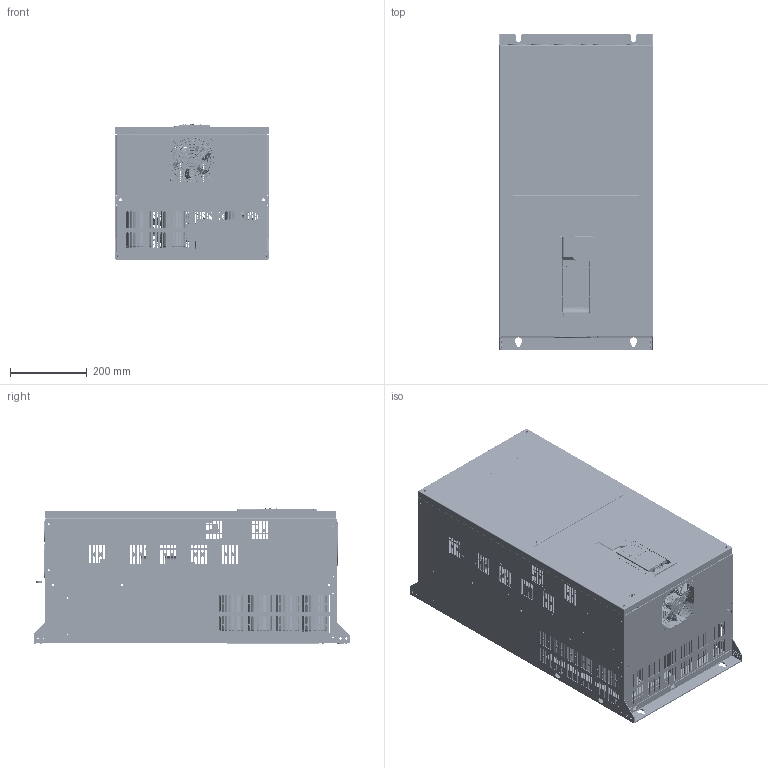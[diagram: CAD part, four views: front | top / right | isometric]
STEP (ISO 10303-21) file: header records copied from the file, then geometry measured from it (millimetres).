
FILE_DESCRIPTION(('STEP AP203'), '1');
FILE_NAME('F8', '', ('UNSPECIFIED'), ('UNSPECIFIED'), 'C3D Converter', 'C3D Toolkit', '');
FILE_SCHEMA(('CONFIG_CONTROL_DESIGN'));
Length unit declared in the file: millimetre
Products named in the file (1): INPRIME-G185-4F
Bounding box: 403 x 825 x 353.48 mm (x, y, z)
Surface area: 5959585.4 mm2
Topology: 28 solids, 369 shells, 3058 faces, 15890 edges, 12900 vertices
Faces by surface type: plane 1657, cylinder 1172, bspline 124, torus 94, cone 10, sphere 1
Full cylindrical faces by diameter (mm): 1.14 x1, 1.5 x16, 3 x1, 3.3 x1, 4 x22, 4.2 x2, 4.5 x26, 5 x19, 5.5 x15, 6 x30, 6.2 x2, 6.5 x1, 7 x6, 7.6 x1, 8 x9, 8.2 x1, 8.7 x2, 10 x2, 10.5 x4, 11 x4, 14 x2, 30 x2, 37.5 x4, 48.5 x1, 50 x4, 56 x4, 64 x5, 72 x2
Entity records: 213491 total; most frequent: CARTESIAN_POINT 64618, DIRECTION 23138, ORIENTED_EDGE 21607, EDGE_CURVE 15571, VERTEX_POINT 12885, LINE 9554, VECTOR 9554, AXIS2_PLACEMENT_3D 6792
